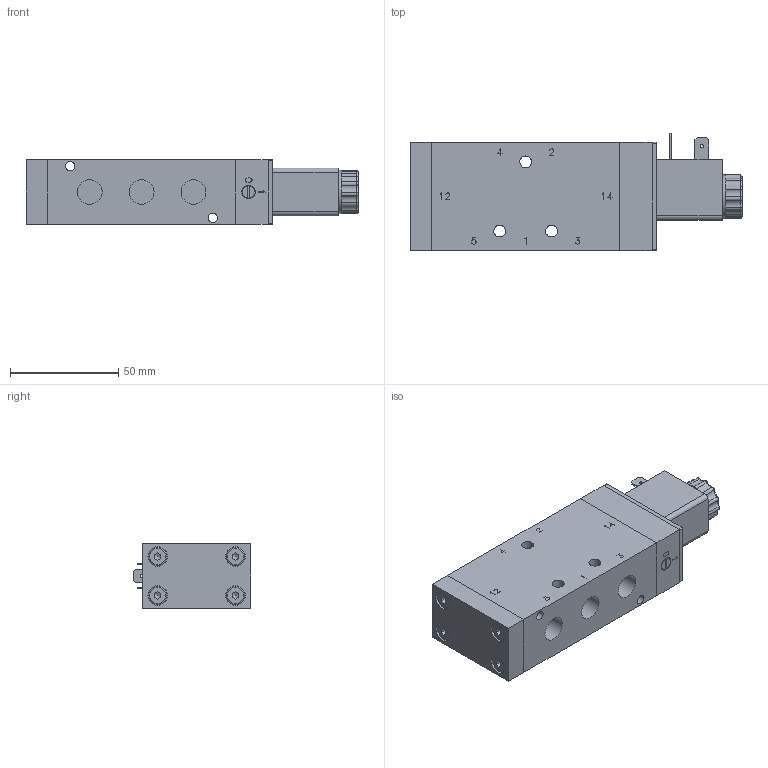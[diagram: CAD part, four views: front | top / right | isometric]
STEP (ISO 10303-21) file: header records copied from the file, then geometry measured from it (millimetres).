
FILE_DESCRIPTION (( 'STEP AP214' ), '1' );
FILE_NAME ('KMX-10-511-HN-F12_Airtec.step', '2020-06-19T14:34:28', ( '' ), ( '' ), 'SwSTEP 2.0', 'SolidWorks 2010', '' );
FILE_SCHEMA (( 'AUTOMOTIVE_DESIGN' ));
Length unit declared in the file: millimetre
Products named in the file (3): Volumenkörper3-2; Volumenkörper1; KMX-10-511-HN-F12_Airtec
Assembly tree (2 placements, depth 2):
  KMX-10-511-HN-F12_Airtec
    Volumenkörper3-2
    Volumenkörper1
Bounding box: 153.6 x 54.2 x 30 mm (x, y, z)
Volume: 181373.7 mm3; surface area: 35451.7 mm2
Topology: 2 solids, 2 shells, 768 faces, 2059 edges, 1345 vertices
Faces by surface type: plane 563, cylinder 87, torus 53, cone 51, bspline 14
Full cylindrical faces by diameter (mm): 1.5 x3, 2.459 x1, 4.3 x2, 5.5 x3, 8 x1, 8.15 x1, 8.5 x4, 9 x4, 9.04 x2, 9.3 x4, 11.445 x5, 15 x1, 16.6 x1, 20 x1
Entity records: 28818 total; most frequent: CARTESIAN_POINT 6283, ORIENTED_EDGE 3952, DIRECTION 3613, EDGE_CURVE 1976, VECTOR 1461, LINE 1461, VERTEX_POINT 1319, AXIS2_PLACEMENT_3D 1076
